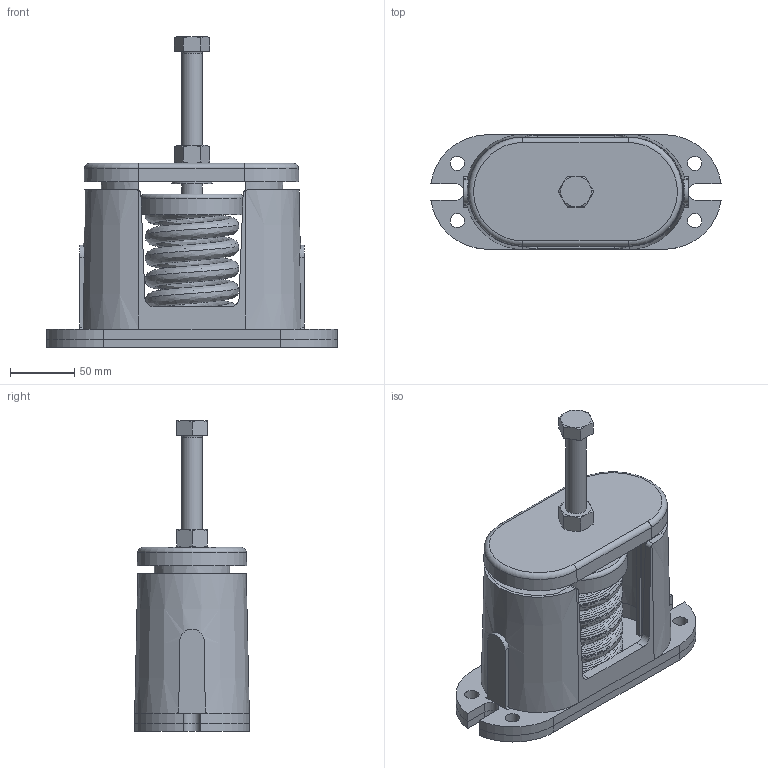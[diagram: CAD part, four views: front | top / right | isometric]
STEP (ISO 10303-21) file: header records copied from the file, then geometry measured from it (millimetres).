
FILE_DESCRIPTION(/* description */ (''),/* implementation_level */ '2;1');
FILE_NAME(/* name */ 'C:\001_Work\Designs\C MOUNTS\C-C, C2\C-C-2935.stp',/* time_stamp */ '2015-12-07T12:32:55-05:00',/* author */ ('rramoutar'),/* organization */ ('Mason Industries Inc.'),/* preprocessor_version */ 'ST-DEVELOPER v15.6',/* originating_system */ 'Autodesk Inventor 2015',/* authorisation */ '');
FILE_SCHEMA (('CONFIG_CONTROL_DESIGN'));
Length unit declared in the file: inch
Products named in the file (1): C-C-2935
Bounding box: 225.43 x 88.9 x 241.33 mm (x, y, z)
Volume: 820338.9 mm3; surface area: 294632.8 mm2
Topology: 1 solids, 3 shells, 232 faces, 602 edges, 383 vertices
Faces by surface type: plane 116, cylinder 54, cone 31, bspline 22, torus 9
Full cylindrical faces by diameter (mm): 11.112 x8, 15.875 x3, 25.4 x2, 31.75 x1, 73.819 x1, 79.894 x1
Entity records: 17081 total; most frequent: CARTESIAN_POINT 11413, ORIENTED_EDGE 1134, DIRECTION 1071, EDGE_CURVE 567, AXIS2_PLACEMENT_3D 402, VERTEX_POINT 376, EDGE_LOOP 287, LINE 267
